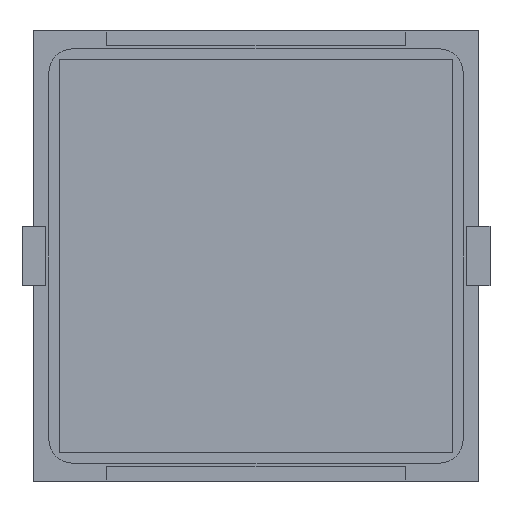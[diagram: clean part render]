
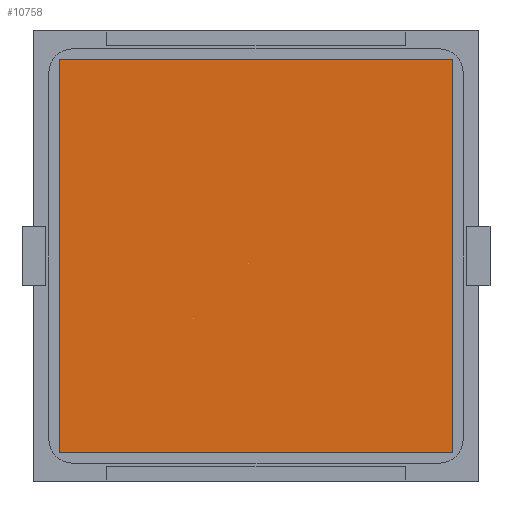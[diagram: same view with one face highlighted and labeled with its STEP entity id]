
A CAD part, front view. The second image highlights one B-rep face of the part: STEP entity #10758.
In plain terms, the highlighted planar face has unit normal (0, -1, 0).
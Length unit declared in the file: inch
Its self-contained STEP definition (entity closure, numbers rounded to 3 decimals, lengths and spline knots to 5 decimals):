
#376 = EDGE_CURVE ( 'NONE', #13740, #8612, #8190, .T. ) ;
#1542 = EDGE_CURVE ( 'NONE', #11803, #10612, #8601, .T. ) ;
#2071 = ORIENTED_EDGE ( 'NONE', *, *, #1542, .T. ) ;
#2193 = DIRECTION ( 'NONE',  ( -1., 0., 0. ) ) ;
#2198 = DIRECTION ( 'NONE',  ( 1., 0., 0. ) ) ;
#2455 = FACE_OUTER_BOUND ( 'NONE', #7735, .T. ) ;
#3262 = VECTOR ( 'NONE', #12172, 39.37008 ) ;
#4425 = DIRECTION ( 'NONE',  ( 0., 0., -1. ) ) ;
#4614 = EDGE_CURVE ( 'NONE', #8612, #11803, #8295, .T. ) ;
#5072 = ORIENTED_EDGE ( 'NONE', *, *, #4614, .T. ) ;
#5459 = EDGE_CURVE ( 'NONE', #10612, #13740, #13183, .T. ) ;
#5628 = DIRECTION ( 'NONE',  ( 0., 0., 1. ) ) ;
#6014 = CARTESIAN_POINT ( 'NONE',  ( -0.64961, -0.005, -0.64961 ) ) ;
#6175 = ORIENTED_EDGE ( 'NONE', *, *, #5459, .T. ) ;
#6273 = VECTOR ( 'NONE', #4425, 39.37008 ) ;
#7735 = EDGE_LOOP ( 'NONE', ( #5072, #2071, #6175, #9536 ) ) ;
#8190 = LINE ( 'NONE', #13204, #8223 ) ;
#8223 = VECTOR ( 'NONE', #2198, 39.37008 ) ;
#8295 = LINE ( 'NONE', #10852, #3262 ) ;
#8428 = CARTESIAN_POINT ( 'NONE',  ( 0.64961, -0.005, 0.64961 ) ) ;
#8601 = LINE ( 'NONE', #9591, #16153 ) ;
#8612 = VERTEX_POINT ( 'NONE', #13777 ) ;
#9536 = ORIENTED_EDGE ( 'NONE', *, *, #376, .T. ) ;
#9591 = CARTESIAN_POINT ( 'NONE',  ( 0.64961, -0.005, 0.64961 ) ) ;
#9760 = CARTESIAN_POINT ( 'NONE',  ( -0.64961, -0.005, 0.64961 ) ) ;
#10464 = CARTESIAN_POINT ( 'NONE',  ( 0.64961, -0.005, 0.64961 ) ) ;
#10612 = VERTEX_POINT ( 'NONE', #9760 ) ;
#10758 = ADVANCED_FACE ( 'NONE', ( #2455 ), #12543, .T. ) ;
#10852 = CARTESIAN_POINT ( 'NONE',  ( 0.64961, -0.005, -0.64961 ) ) ;
#11803 = VERTEX_POINT ( 'NONE', #8428 ) ;
#12172 = DIRECTION ( 'NONE',  ( 0., 0., 1. ) ) ;
#12543 = PLANE ( 'NONE',  #16208 ) ;
#12795 = DIRECTION ( 'NONE',  ( 0., -1., 0. ) ) ;
#13183 = LINE ( 'NONE', #14480, #6273 ) ;
#13204 = CARTESIAN_POINT ( 'NONE',  ( 0.64961, -0.005, -0.64961 ) ) ;
#13740 = VERTEX_POINT ( 'NONE', #6014 ) ;
#13777 = CARTESIAN_POINT ( 'NONE',  ( 0.64961, -0.005, -0.64961 ) ) ;
#14480 = CARTESIAN_POINT ( 'NONE',  ( -0.64961, -0.005, -0.64961 ) ) ;
#16153 = VECTOR ( 'NONE', #2193, 39.37008 ) ;
#16208 = AXIS2_PLACEMENT_3D ( 'NONE', #10464, #12795, #5628 ) ;
